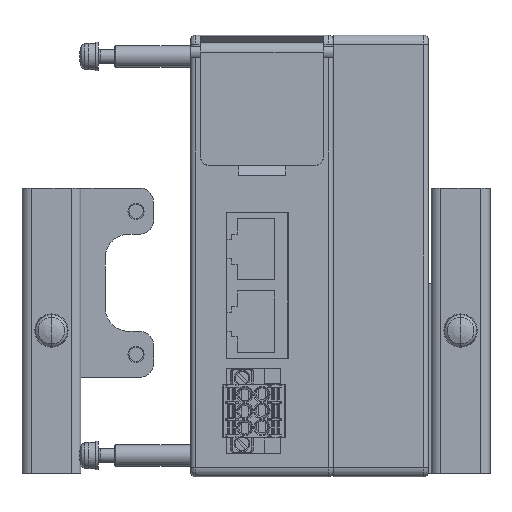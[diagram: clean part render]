
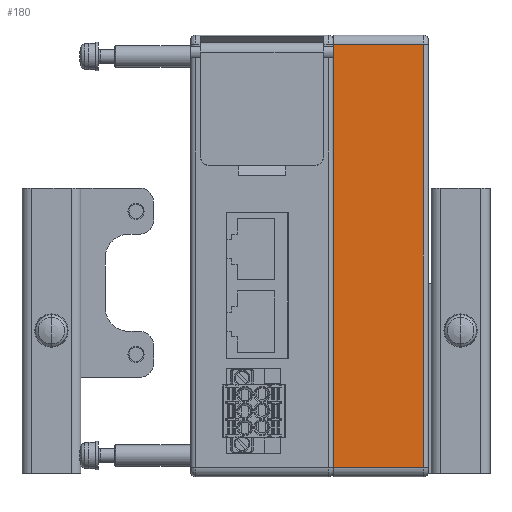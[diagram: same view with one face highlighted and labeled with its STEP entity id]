
A CAD part, front view. The second image highlights one B-rep face of the part: STEP entity #180.
In plain terms, the highlighted planar face has unit normal (0, -1, 0).
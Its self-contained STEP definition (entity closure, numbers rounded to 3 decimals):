
#180=ADVANCED_FACE('',(#1565),#1564,.T.);
#1564=PLANE('',#9736);
#1565=FACE_OUTER_BOUND('',#9737,.T.);
#9733=CARTESIAN_POINT('',(28.1,-53.6,69.1));
#9734=DIRECTION('',(0.,-1.,0.));
#9735=DIRECTION('',(0.,0.,-1.));
#9736=AXIS2_PLACEMENT_3D('',#9733,#9734,#9735);
#9737=EDGE_LOOP('',(#14980,#14981,#14982,#14983));
#14980=ORIENTED_EDGE('',*,*,#19265,.T.);
#14981=ORIENTED_EDGE('',*,*,#19266,.T.);
#14982=ORIENTED_EDGE('',*,*,#19267,.T.);
#14983=ORIENTED_EDGE('',*,*,#19268,.F.);
#19265=EDGE_CURVE('',#22605,#22606,#22607,.T.);
#19266=EDGE_CURVE('',#22606,#22613,#22614,.T.);
#19267=EDGE_CURVE('',#22613,#22620,#22621,.T.);
#19268=EDGE_CURVE('',#22605,#22620,#22627,.T.);
#22605=VERTEX_POINT('',#36582);
#22606=VERTEX_POINT('',#36583);
#22607=LINE('',#36584,#36585);
#22613=VERTEX_POINT('',#36587);
#22614=LINE('',#36588,#36589);
#22620=VERTEX_POINT('',#36591);
#22621=LINE('',#36592,#36593);
#22627=LINE('',#36595,#36596);
#36582=CARTESIAN_POINT('',(30.,-53.6,-28.8));
#36583=CARTESIAN_POINT('',(49.,-53.6,-28.8));
#36584=CARTESIAN_POINT('',(30.,-53.6,-28.8));
#36585=VECTOR('',#36586,19.);
#36586=DIRECTION('',(1.,0.,0.));
#36587=CARTESIAN_POINT('',(49.,-53.6,60.2));
#36588=CARTESIAN_POINT('',(49.,-53.6,-28.8));
#36589=VECTOR('',#36590,89.);
#36590=DIRECTION('',(0.,0.,1.));
#36591=CARTESIAN_POINT('',(30.,-53.6,60.2));
#36592=CARTESIAN_POINT('',(49.,-53.6,60.2));
#36593=VECTOR('',#36594,19.);
#36594=DIRECTION('',(-1.,0.,0.));
#36595=CARTESIAN_POINT('',(30.,-53.6,-28.8));
#36596=VECTOR('',#36597,89.);
#36597=DIRECTION('',(0.,0.,1.));
